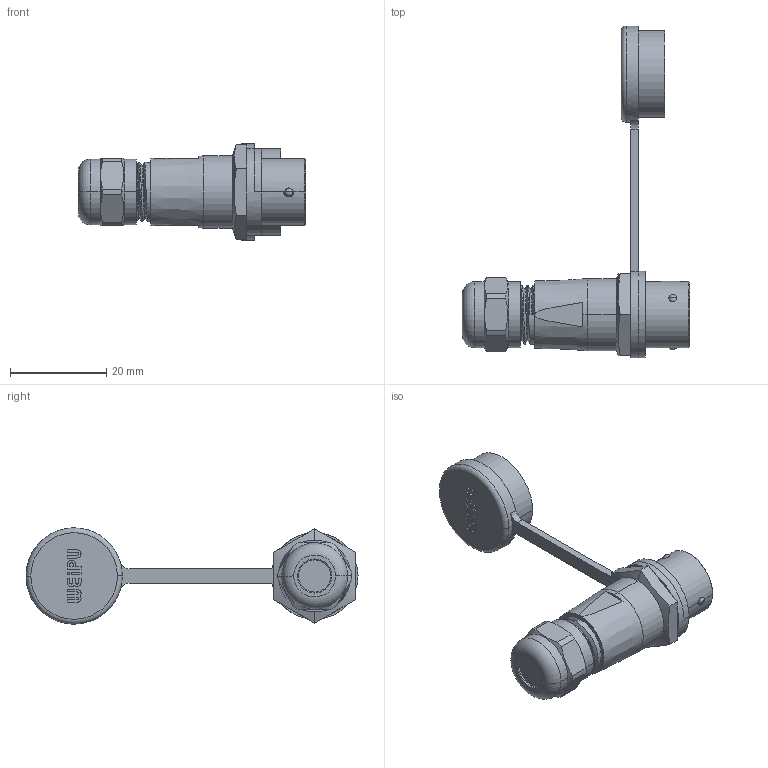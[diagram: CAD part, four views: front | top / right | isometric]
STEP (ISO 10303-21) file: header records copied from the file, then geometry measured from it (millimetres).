
FILE_DESCRIPTION((''),'2;1');
FILE_NAME('SA1211P3-1','2021-11-11T',('Administrator'),(''),'CREO PARAMETRIC BY PTC INC, 2016130','CREO PARAMETRIC BY PTC INC, 2016130','');
FILE_SCHEMA(('CONFIG_CONTROL_DESIGN'));
Length unit declared in the file: millimetre
Products named in the file (1): SA1211P3-1
Bounding box: 47.2 x 69 x 20 mm (x, y, z)
Volume: 9331.4 mm3; surface area: 4610.7 mm2
Topology: 1 solids, 2 shells, 182 faces, 486 edges, 320 vertices
Faces by surface type: plane 94, cylinder 55, cone 16, torus 8, sphere 6, bspline 3
Entity records: 6626 total; most frequent: CARTESIAN_POINT 1955, DIRECTION 981, ORIENTED_EDGE 962, EDGE_CURVE 481, AXIS2_PLACEMENT_3D 370, VERTEX_POINT 320, VECTOR 241, LINE 241
